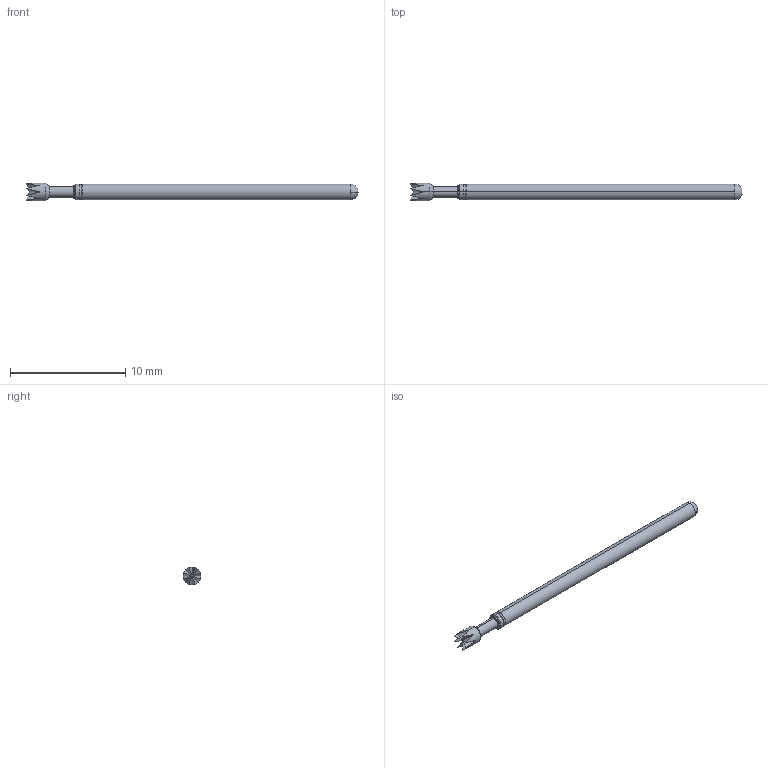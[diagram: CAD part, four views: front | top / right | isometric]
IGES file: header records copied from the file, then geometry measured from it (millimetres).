
Start section: SolidWorks IGES file using analytic representation for surfaces
Global section: file name: Z:\probe solid model mockups\Solidworks models\POGO-25 IGS files\POGO-25Z RECD.IGS; native system: SolidWorks 2006 by SolidWorks Corporation; preprocessor: SolidWorks 2006 by SolidWorks Corporation; author: tsakatani; date: 071214.093935; units: inch
Bounding box: 28.78 x 1.52 x 1.52 mm (x, y, z)
Surface area: 127.6 mm2 (no closed solid volume)
Topology: 0 solids, 0 shells, 38 faces, 210 edges, 210 vertices
Faces by surface type: bspline 22, revolution 16
